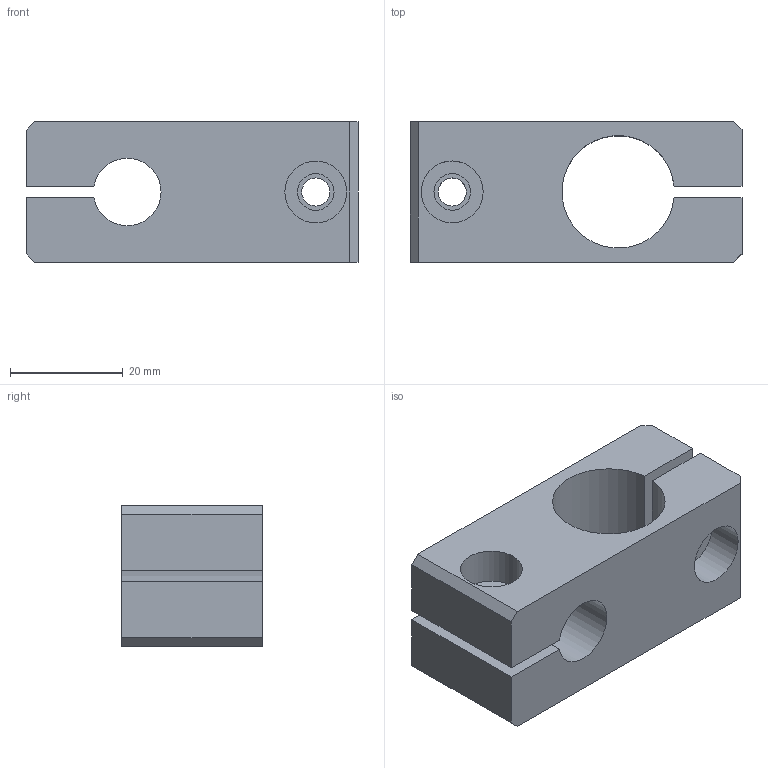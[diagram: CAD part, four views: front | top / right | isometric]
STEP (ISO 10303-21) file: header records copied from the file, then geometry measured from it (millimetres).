
FILE_DESCRIPTION (( 'STEP AP203' ), '1' );
FILE_NAME ('N01861-204(131100).STEP', '2019-09-09T05:25:51', ( '' ), ( '' ), 'SwSTEP 2.0', 'SolidWorks 2018', '' );
FILE_SCHEMA (( 'CONFIG_CONTROL_DESIGN' ));
Length unit declared in the file: millimetre
Products named in the file (2): N01861-204(131100)
Bounding box: 59 x 25 x 25 mm (x, y, z)
Volume: 22860 mm3; surface area: 10425.6 mm2
Topology: 1 solids, 1 shells, 26 faces, 66 edges, 44 vertices
Faces by surface type: plane 18, cylinder 8
Full cylindrical faces by diameter (mm): 5 x2, 6.5 x2, 11 x2
Entity records: 927 total; most frequent: CARTESIAN_POINT 132, DIRECTION 132, ORIENTED_EDGE 120, EDGE_CURVE 60, LINE 44, VERTEX_POINT 44, AXIS2_PLACEMENT_3D 44, VECTOR 44
